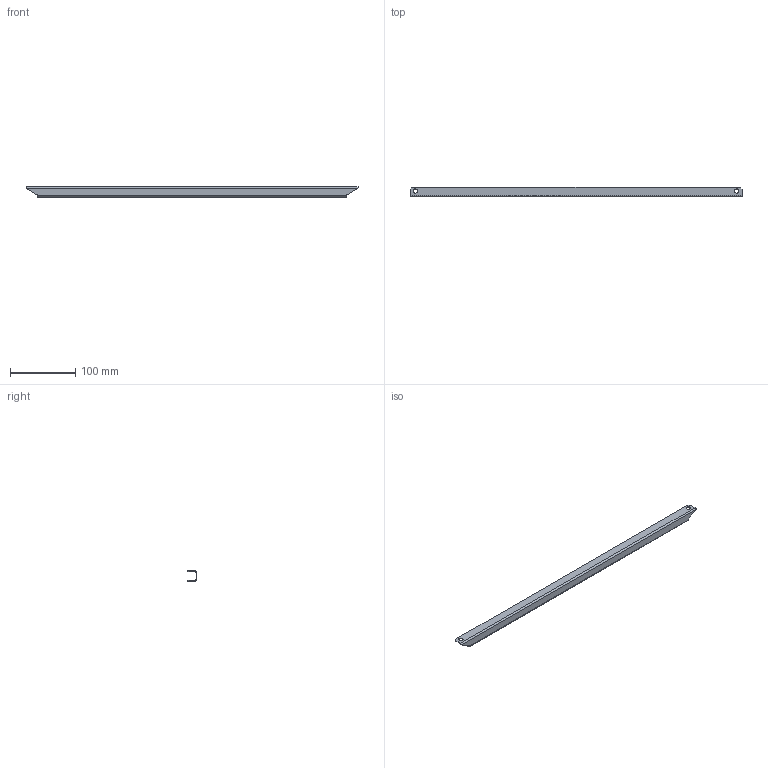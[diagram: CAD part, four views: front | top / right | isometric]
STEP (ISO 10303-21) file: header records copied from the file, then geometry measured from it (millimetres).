
FILE_DESCRIPTION (( 'STEP AP203' ), '1' );
FILE_NAME ('VB 60 Ðåéêà.STEP', '2012-11-15T06:56:39', ( 'Àëåêñàíäð' ), ( 'Ïðîâåíòî' ), 'SwSTEP 2.0', 'SolidWorks 2012', '' );
FILE_SCHEMA (( 'CONFIG_CONTROL_DESIGN' ));
Length unit declared in the file: millimetre
Products named in the file (1): VB 60 Ðåéêà
Bounding box: 510 x 15 x 15.5 mm (x, y, z)
Volume: 24143.9 mm3; surface area: 41872.3 mm2
Topology: 1 solids, 1 shells, 68 faces, 198 edges, 132 vertices
Faces by surface type: cylinder 50, plane 18
Entity records: 2491 total; most frequent: CARTESIAN_POINT 435, DIRECTION 432, ORIENTED_EDGE 396, EDGE_CURVE 198, AXIS2_PLACEMENT_3D 169, VERTEX_POINT 132, EDGE_LOOP 110, CIRCLE 100
